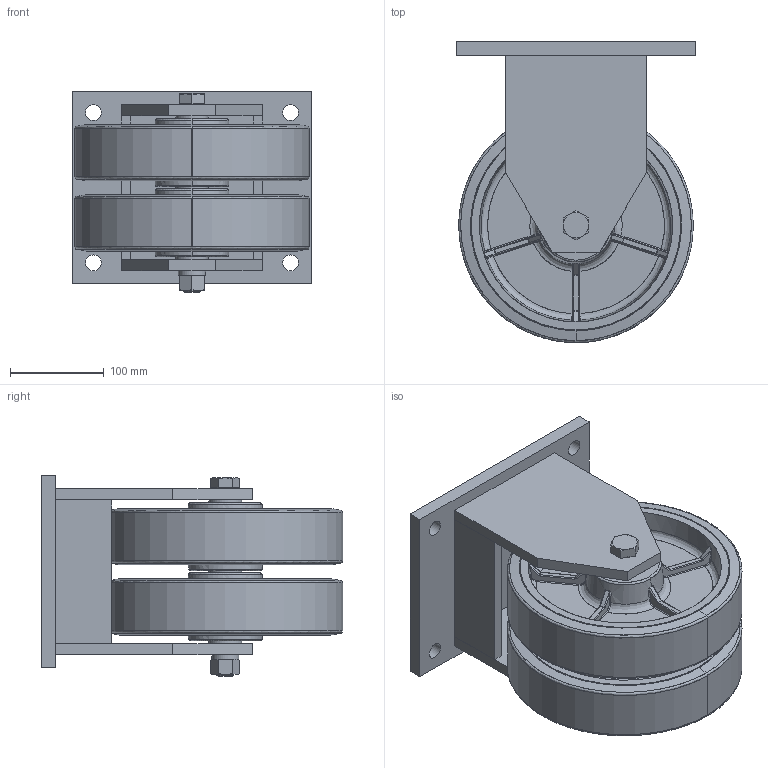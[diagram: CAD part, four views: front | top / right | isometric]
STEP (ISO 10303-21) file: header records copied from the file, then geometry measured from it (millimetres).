
FILE_DESCRIPTION(('STEP AP203'),'2;1');
FILE_NAME('7486_CL.stp','2010-05-04T13:06:59',(''),(''),'2009.1.108','THINKDESIGN','');
FILE_SCHEMA(('CONFIG_CONTROL_DESIGN'));
Bounding box: 255 x 321 x 214 mm (x, y, z)
Volume: 1704488.4 mm3; surface area: 744372.5 mm2
Topology: 12 solids, 12 shells, 1085 faces, 4765 edges, 4682 vertices
Faces by surface type: bspline 542, cylinder 325, plane 218
Full cylindrical faces by diameter (mm): 15.294 x1, 17 x4, 18 x1, 18.5 x2, 19 x1, 25 x1, 25.3 x3, 25.34 x1, 35 x3
Entity records: 81671 total; most frequent: CARTESIAN_POINT 60929, COMPOSITE_CURVE_SEGMENT 4508, DIRECTION 3586, B_SPLINE_CURVE_WITH_KNOTS 2094, TRIMMED_CURVE 1678, VECTOR 1290, LINE 1290, AXIS2_PLACEMENT_3D 1148
